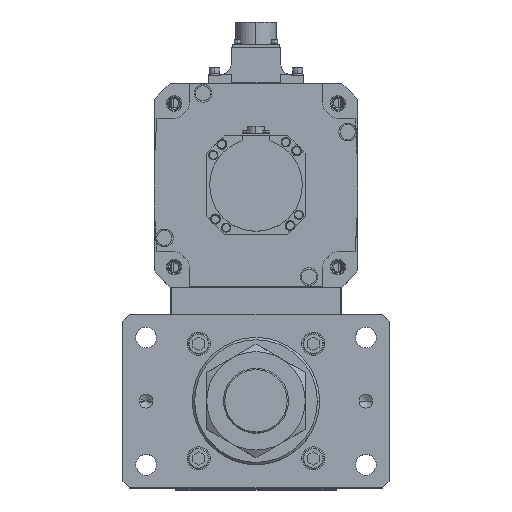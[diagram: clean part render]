
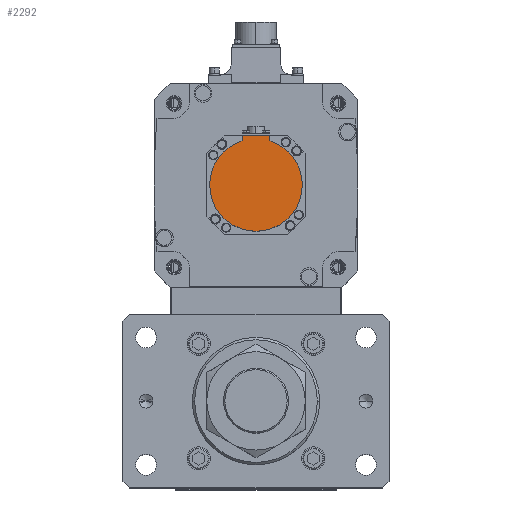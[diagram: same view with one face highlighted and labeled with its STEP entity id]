
A CAD part, top view. The second image highlights one B-rep face of the part: STEP entity #2292.
In plain terms, the highlighted planar face has unit normal (0, 0, 1) as drawn and (0, 0, -1) by its records, which use the part's own axes.
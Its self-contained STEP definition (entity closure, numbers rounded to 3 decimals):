
#1646 = AXIS2_PLACEMENT_3D ( 'NONE', #22122, #1709, #45977 ) ;
#1709 = DIRECTION ( 'NONE',  ( 0., 0., 1. ) ) ;
#2292 = ADVANCED_FACE ( 'NONE', ( #27617 ), #11807, .F. ) ;
#2309 = CIRCLE ( 'NONE', #30783, 40. ) ;
#3334 = AXIS2_PLACEMENT_3D ( 'NONE', #28073, #7509, #43919 ) ;
#3706 = LINE ( 'NONE', #42716, #30577 ) ;
#4819 = VERTEX_POINT ( 'NONE', #12772 ) ;
#5713 = ORIENTED_EDGE ( 'NONE', *, *, #37066, .T. ) ;
#6123 = VERTEX_POINT ( 'NONE', #33067 ) ;
#6614 = DIRECTION ( 'NONE',  ( 1., 0., 0. ) ) ;
#7498 = VECTOR ( 'NONE', #14882, 1000. ) ;
#7509 = DIRECTION ( 'NONE',  ( 0., 0., 1. ) ) ;
#11807 = PLANE ( 'NONE',  #3334 ) ;
#12772 = CARTESIAN_POINT ( 'NONE',  ( -12., -42.5, -162.5 ) ) ;
#13391 = DIRECTION ( 'NONE',  ( 1., 0., 0. ) ) ;
#14359 = VERTEX_POINT ( 'NONE', #17268 ) ;
#14853 = CIRCLE ( 'NONE', #1646, 40. ) ;
#14882 = DIRECTION ( 'NONE',  ( 0., 1., 0. ) ) ;
#15565 = ORIENTED_EDGE ( 'NONE', *, *, #20259, .F. ) ;
#17268 = CARTESIAN_POINT ( 'NONE',  ( -40., 0., -162.5 ) ) ;
#17353 = DIRECTION ( 'NONE',  ( 0., 0., 1. ) ) ;
#19437 = LINE ( 'NONE', #20837, #27712 ) ;
#20259 = EDGE_CURVE ( 'NONE', #48972, #6123, #48956, .T. ) ;
#20614 = EDGE_CURVE ( 'NONE', #48467, #14359, #2309, .T. ) ;
#20837 = CARTESIAN_POINT ( 'NONE',  ( 0., -42.5, -162.5 ) ) ;
#22122 = CARTESIAN_POINT ( 'NONE',  ( 0., 0., -162.5 ) ) ;
#22396 = CARTESIAN_POINT ( 'NONE',  ( -12., -38.158, -162.5 ) ) ;
#22437 = DIRECTION ( 'NONE',  ( 0., 1., 0. ) ) ;
#22585 = CARTESIAN_POINT ( 'NONE',  ( 0., 0., -162.5 ) ) ;
#22842 = CARTESIAN_POINT ( 'NONE',  ( 40., 0., -162.5 ) ) ;
#25810 = ORIENTED_EDGE ( 'NONE', *, *, #20614, .F. ) ;
#27617 = FACE_OUTER_BOUND ( 'NONE', #36886, .T. ) ;
#27712 = VECTOR ( 'NONE', #44487, 1000. ) ;
#28073 = CARTESIAN_POINT ( 'NONE',  ( 0., -1.249, -162.5 ) ) ;
#29440 = CARTESIAN_POINT ( 'NONE',  ( 0., 0., -162.5 ) ) ;
#30577 = VECTOR ( 'NONE', #22437, 1000. ) ;
#30755 = DIRECTION ( 'NONE',  ( 0., 0., 1. ) ) ;
#30783 = AXIS2_PLACEMENT_3D ( 'NONE', #22585, #30755, #6614 ) ;
#31731 = CIRCLE ( 'NONE', #47447, 40. ) ;
#33067 = CARTESIAN_POINT ( 'NONE',  ( 12., -38.158, -162.5 ) ) ;
#33339 = EDGE_CURVE ( 'NONE', #48972, #4819, #19437, .T. ) ;
#33500 = VERTEX_POINT ( 'NONE', #22396 ) ;
#36567 = ORIENTED_EDGE ( 'NONE', *, *, #51432, .F. ) ;
#36886 = EDGE_LOOP ( 'NONE', ( #5713, #38606, #25810, #36567, #15565, #49516 ) ) ;
#37066 = EDGE_CURVE ( 'NONE', #4819, #33500, #3706, .T. ) ;
#37765 = EDGE_CURVE ( 'NONE', #14359, #33500, #31731, .T. ) ;
#38606 = ORIENTED_EDGE ( 'NONE', *, *, #37765, .F. ) ;
#39307 = CARTESIAN_POINT ( 'NONE',  ( 12., -1.249, -162.5 ) ) ;
#42716 = CARTESIAN_POINT ( 'NONE',  ( -12., -40.329, -162.5 ) ) ;
#43919 = DIRECTION ( 'NONE',  ( 1., 0., 0. ) ) ;
#44487 = DIRECTION ( 'NONE',  ( -1., 0., 0. ) ) ;
#45457 = CARTESIAN_POINT ( 'NONE',  ( 12., -42.5, -162.5 ) ) ;
#45977 = DIRECTION ( 'NONE',  ( 1., 0., 0. ) ) ;
#47447 = AXIS2_PLACEMENT_3D ( 'NONE', #29440, #17353, #13391 ) ;
#48467 = VERTEX_POINT ( 'NONE', #22842 ) ;
#48956 = LINE ( 'NONE', #39307, #7498 ) ;
#48972 = VERTEX_POINT ( 'NONE', #45457 ) ;
#49516 = ORIENTED_EDGE ( 'NONE', *, *, #33339, .T. ) ;
#51432 = EDGE_CURVE ( 'NONE', #6123, #48467, #14853, .T. ) ;
